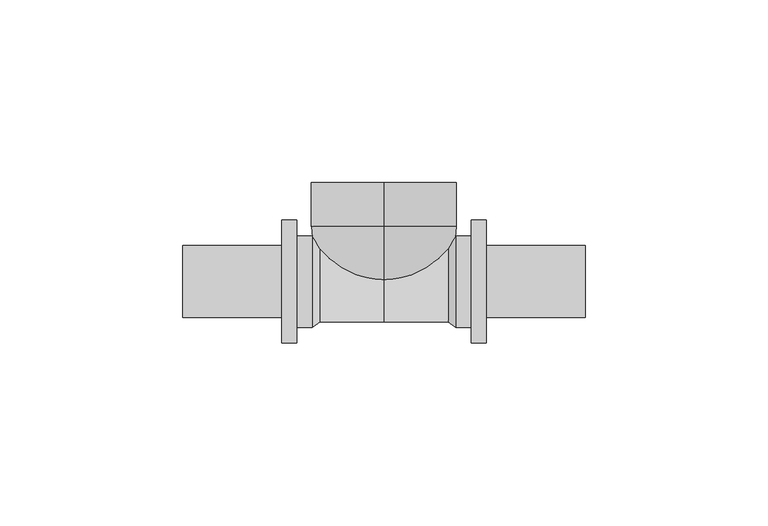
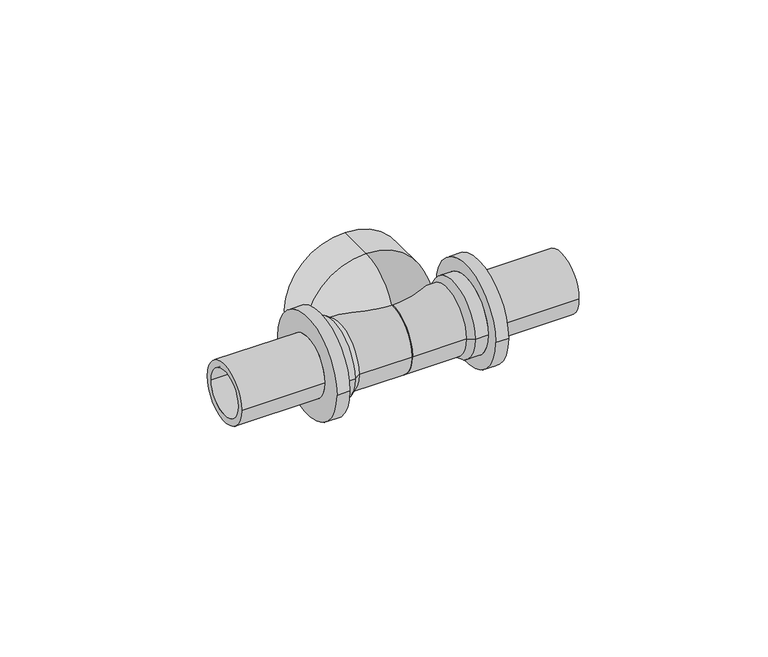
"""IFC4 building model written with IfcOpenShell, lengths in millimetres: pipe fitting geometry, REHAU_RAUTITAN_T-piece RX+, outlet with internal thread : REHAU_RAUTITAN_T-piece RX+, outlet with internal thread."""

from ifc_helpers import new_model, si_unit, point, frame, origin, place, context, project, spatial, polyline, circle_curve, ellipse_curve, trimmed, source, transform, mapped, element, save
from ifc_brep_helpers import plane_surface, cylinder_surface, revolved_surface, advanced_brep


def pipe_fitting_70f18579(model_context):
    return source(origin(), model_context, "Body", "AdvancedBrep", [
        advanced_brep(
        [(0.0, -0.9422002, 4.32), (0.0, -0.9422002, -4.32), (0.0, 15.08, -19.85), (0.0, 15.08, 19.85), (0.0, 2.8802418, 4.32), (0.0, 2.8802418, -4.32), (0.0, 15.08, 16.03), (0.0, 15.08, -16.03), (0.0, 27.06, 16.03), (0.0, 27.06, -16.03), (0.0, 27.06, -19.85), (0.0, 27.06, 19.85)],
        [
            (0, 1, circle_curve(frame((0.0, -0.9422002, 0.0), z_axis=(0.0, 1.0, 0.0), x_axis=(0.0, 0.0, -1.0)), 4.32)),
            (1, 2, circle_curve(frame((0.0, 15.08, -3.82), z_axis=(1.0, 0.0, 0.0), x_axis=(0.0, 1.0, 0.0)), 16.03)),
            (2, 3, circle_curve(frame((0.0, 15.08, 0.0), z_axis=(0.0, -1.0, 0.0), x_axis=(0.0, 0.0, -1.0)), 19.85)),
            (3, 0, circle_curve(frame((0.0, 15.08, 3.82), z_axis=(1.0, 0.0, 0.0), x_axis=(0.0, 1.0, 0.0)), 16.03)),
            (4, 5, circle_curve(frame((0.0, 2.8802418, 0.0), z_axis=(0.0, 1.0, 0.0), x_axis=(0.0, 0.0, -1.0)), 4.32)),
            (5, 1),
            (0, 4),
            (6, 7, circle_curve(frame((0.0, 15.08, 0.0), z_axis=(0.0, 1.0, 0.0), x_axis=(0.0, 0.0, -1.0)), 16.03)),
            (7, 5, circle_curve(frame((0.0, 15.08, -3.82), z_axis=(-1.0, 0.0, 0.0), x_axis=(0.0, 1.0, 0.0)), 12.21)),
            (4, 6, circle_curve(frame((0.0, 15.08, 3.82), z_axis=(-1.0, 0.0, 0.0), x_axis=(0.0, 1.0, 0.0)), 12.21)),
            (8, 9, circle_curve(frame((0.0, 27.06, 0.0), z_axis=(0.0, 1.0, 0.0), x_axis=(0.0, 0.0, -1.0)), 16.03)),
            (9, 7),
            (6, 8),
            (2, 10),
            (10, 11, circle_curve(frame((0.0, 27.06, 0.0), z_axis=(0.0, -1.0, 0.0), x_axis=(0.0, 0.0, -1.0)), 19.85)),
            (11, 3),
            (1, 0, circle_curve(frame((0.0, -0.9422002, 0.0), z_axis=(0.0, 1.0, 0.0), x_axis=(0.0, 0.0, 1.0)), 4.32)),
            (3, 2, circle_curve(frame((0.0, 15.08, 0.0), z_axis=(0.0, -1.0, 0.0), x_axis=(0.0, 0.0, 1.0)), 19.85)),
            (5, 4, circle_curve(frame((0.0, 2.8802418, 0.0), z_axis=(0.0, 1.0, 0.0), x_axis=(0.0, 0.0, 1.0)), 4.32)),
            (7, 6, circle_curve(frame((0.0, 15.08, 0.0), z_axis=(0.0, 1.0, 0.0), x_axis=(0.0, 0.0, 1.0)), 16.03)),
            (9, 8, circle_curve(frame((0.0, 27.06, 0.0), z_axis=(0.0, 1.0, 0.0), x_axis=(0.0, 0.0, 1.0)), 16.03)),
            (10, 11, circle_curve(frame((0.0, 27.06, 0.0), z_axis=(0.0, 1.0, 0.0), x_axis=(0.0, 0.0, 1.0)), 19.85)),
        ],
        [
            revolved_surface(trimmed(ellipse_curve(frame((0.0, 15.08, -3.82), z_axis=(-1.0, 0.0, 0.0), x_axis=(0.0, 1.0, 0.0)), 16.03, 16.03), [point((0.0, 15.08, -19.85))], [point((0.0, -0.9422002, -4.32))], True, "CARTESIAN"), (0.0, 0.0, 0.0), (0.0, -1.0, 0.0)),
            revolved_surface(polyline([(0.0, -0.9422002, -4.32), (0.0, 2.8802418, -4.32)]), (0.0, 0.0, 0.0), (0.0, -1.0, 0.0)),
            revolved_surface(trimmed(ellipse_curve(frame((0.0, 15.08, -3.82), z_axis=(1.0, 0.0, 0.0), x_axis=(0.0, 1.0, 0.0)), 12.21, 12.21), [point((0.0, 2.8802418, -4.32))], [point((0.0, 15.08, -16.03))], True, "CARTESIAN"), (0.0, 0.0, 0.0), (0.0, -1.0, 0.0)),
            revolved_surface(polyline([(0.0, 15.08, -16.03), (0.0, 27.06, -16.03)]), (0.0, 0.0, 0.0), (0.0, -1.0, 0.0)),
            cylinder_surface(frame((0.0, 0.0, 0.0), z_axis=(0.0, -1.0, 0.0), x_axis=(0.0, 0.0, -1.0)), 19.85),
            revolved_surface(trimmed(ellipse_curve(frame((0.0, 15.08, 3.82), z_axis=(1.0, 0.0, 0.0), x_axis=(0.0, 1.0, 0.0)), 16.03, 16.03), [point((0.0, 15.08, 19.85))], [point((0.0, -0.9422002, 4.32))], True, "CARTESIAN"), (0.0, 0.0, 0.0), (0.0, -1.0, 0.0)),
            revolved_surface(polyline([(0.0, -0.9422002, 4.32), (0.0, 2.8802418, 4.32)]), (0.0, 0.0, 0.0), (0.0, -1.0, 0.0)),
            revolved_surface(trimmed(ellipse_curve(frame((0.0, 15.08, 3.82), z_axis=(-1.0, 0.0, 0.0), x_axis=(0.0, 1.0, 0.0)), 12.21, 12.21), [point((0.0, 2.8802418, 4.32))], [point((0.0, 15.08, 16.03))], True, "CARTESIAN"), (0.0, 0.0, 0.0), (0.0, -1.0, 0.0)),
            revolved_surface(polyline([(0.0, 15.08, 16.03), (0.0, 27.06, 16.03)]), (0.0, 0.0, 0.0), (0.0, -1.0, 0.0)),
            plane_surface(frame((0.0, 27.06, 0.0), z_axis=(0.0, 1.0, 0.0), x_axis=(0.0, 0.0, 1.0))),
            cylinder_surface(frame((0.0, 0.0, 0.0), z_axis=(0.0, -1.0, 0.0), x_axis=(0.0, 0.0, 1.0)), 19.85),
        ],
        [
            (0, [[1, 2, 3, 4]]),
            (1, [[5, 6, -1, 7]]),
            (2, [[8, 9, -5, 10]]),
            (3, [[11, 12, -8, 13]]),
            (4, [[-3, 14, 15, 16]]),
            (5, [[17, -4, 18, -2]]),
            (6, [[19, -7, -17, -6]]),
            (7, [[20, -10, -19, -9]]),
            (8, [[21, -13, -20, -12]]),
            (9, [[22, -15], [-21, -11]]),
            (10, [[-18, -16, -22, -14]]),
        ],
    ),
        advanced_brep(
        [(19.6, 7.6, 0.0), (19.6, -7.6, 0.0), (55.0, -7.6, 0.0), (55.0, 7.6, 0.0), (17.5, 8.195, 0.0), (17.5, -8.195, 0.0), (0.0, 8.195, 0.0), (0.0, -8.195, 0.0), (17.5, 11.055, 0.0), (17.5, -11.055, 0.0), (0.0, -11.055, 0.0), (0.0, 11.055, 0.0), (19.6, 12.5, 0.0), (19.6, -12.5, 0.0), (23.8, 12.5, 0.0), (23.8, -12.5, 0.0), (28.0, 16.8, 0.0), (28.0, -16.8, 0.0), (23.8, -16.8, 0.0), (23.8, 16.8, 0.0), (55.0, 9.875, 0.0), (55.0, -9.875, 0.0), (28.0, -9.875, 0.0), (28.0, 9.875, 0.0)],
        [
            (0, 1, circle_curve(frame((19.6, 0.0, 0.0), z_axis=(-1.0, 0.0, 0.0), x_axis=(0.0, -1.0, 0.0)), 7.6)),
            (1, 2),
            (2, 3, circle_curve(frame((55.0, 0.0, 0.0), z_axis=(1.0, 0.0, 0.0), x_axis=(0.0, -1.0, 0.0)), 7.6)),
            (3, 0),
            (4, 5, circle_curve(frame((17.5, 0.0, 0.0), z_axis=(-1.0, 0.0, 0.0), x_axis=(0.0, -1.0, 0.0)), 8.195)),
            (5, 1),
            (0, 4),
            (6, 7, circle_curve(frame((0.0, 0.0, 0.0), z_axis=(-1.0, 0.0, 0.0), x_axis=(0.0, -1.0, 0.0)), 8.195)),
            (7, 5),
            (4, 6),
            (8, 9, circle_curve(frame((17.5, 0.0, 0.0), z_axis=(-1.0, 0.0, 0.0), x_axis=(0.0, -1.0, 0.0)), 11.055)),
            (9, 10),
            (10, 11, circle_curve(frame((0.0, 0.0, 0.0), z_axis=(1.0, 0.0, 0.0), x_axis=(0.0, -1.0, 0.0)), 11.055)),
            (11, 8),
            (12, 13, circle_curve(frame((19.6, 0.0, 0.0), z_axis=(-1.0, 0.0, 0.0), x_axis=(0.0, -1.0, 0.0)), 12.5)),
            (13, 9),
            (8, 12),
            (14, 15, circle_curve(frame((23.8, 0.0, 0.0), z_axis=(-1.0, 0.0, 0.0), x_axis=(0.0, -1.0, 0.0)), 12.5)),
            (15, 13),
            (12, 14),
            (16, 17, circle_curve(frame((28.0, 0.0, 0.0), z_axis=(-1.0, 0.0, 0.0), x_axis=(0.0, -1.0, 0.0)), 16.8)),
            (17, 18),
            (18, 19, circle_curve(frame((23.8, 0.0, 0.0), z_axis=(1.0, 0.0, 0.0), x_axis=(0.0, -1.0, 0.0)), 16.8)),
            (19, 16),
            (20, 21, circle_curve(frame((55.0, 0.0, 0.0), z_axis=(-1.0, 0.0, 0.0), x_axis=(0.0, -1.0, 0.0)), 9.875)),
            (21, 22),
            (22, 23, circle_curve(frame((28.0, 0.0, 0.0), z_axis=(1.0, 0.0, 0.0), x_axis=(0.0, -1.0, 0.0)), 9.875)),
            (23, 20),
            (20, 21, circle_curve(frame((55.0, 0.0, 0.0), z_axis=(1.0, 0.0, 0.0), x_axis=(0.0, 1.0, 0.0)), 9.875)),
            (2, 3, circle_curve(frame((55.0, 0.0, 0.0), z_axis=(-1.0, 0.0, 0.0), x_axis=(0.0, 1.0, 0.0)), 7.6)),
            (1, 0, circle_curve(frame((19.6, 0.0, 0.0), z_axis=(-1.0, 0.0, 0.0), x_axis=(0.0, 1.0, 0.0)), 7.6)),
            (5, 4, circle_curve(frame((17.5, 0.0, 0.0), z_axis=(-1.0, 0.0, 0.0), x_axis=(0.0, 1.0, 0.0)), 8.195)),
            (7, 6, circle_curve(frame((0.0, 0.0, 0.0), z_axis=(-1.0, 0.0, 0.0), x_axis=(0.0, 1.0, 0.0)), 8.195)),
            (10, 11, circle_curve(frame((0.0, 0.0, 0.0), z_axis=(-1.0, 0.0, 0.0), x_axis=(0.0, 1.0, 0.0)), 11.055)),
            (9, 8, circle_curve(frame((17.5, 0.0, 0.0), z_axis=(-1.0, 0.0, 0.0), x_axis=(0.0, 1.0, 0.0)), 11.055)),
            (13, 12, circle_curve(frame((19.6, 0.0, 0.0), z_axis=(-1.0, 0.0, 0.0), x_axis=(0.0, 1.0, 0.0)), 12.5)),
            (15, 14, circle_curve(frame((23.8, 0.0, 0.0), z_axis=(-1.0, 0.0, 0.0), x_axis=(0.0, 1.0, 0.0)), 12.5)),
            (18, 19, circle_curve(frame((23.8, 0.0, 0.0), z_axis=(-1.0, 0.0, 0.0), x_axis=(0.0, 1.0, 0.0)), 16.8)),
            (17, 16, circle_curve(frame((28.0, 0.0, 0.0), z_axis=(-1.0, 0.0, 0.0), x_axis=(0.0, 1.0, 0.0)), 16.8)),
            (22, 23, circle_curve(frame((28.0, 0.0, 0.0), z_axis=(-1.0, 0.0, 0.0), x_axis=(0.0, 1.0, 0.0)), 9.875)),
        ],
        [
            revolved_surface(polyline([(55.0, -7.6, 0.0), (19.6, -7.6, 0.0)]), (0.0, 0.0, 0.0), (1.0, 0.0, 0.0)),
            revolved_surface(polyline([(19.6, -7.6, 0.0), (17.5, -8.195, 0.0)]), (0.0, 0.0, 0.0), (1.0, 0.0, 0.0)),
            revolved_surface(polyline([(17.5, -8.195, 0.0), (0.0, -8.195, 0.0)]), (0.0, 0.0, 0.0), (1.0, 0.0, 0.0)),
            cylinder_surface(frame((0.0, 0.0, 0.0), z_axis=(1.0, 0.0, 0.0), x_axis=(0.0, -1.0, 0.0)), 11.055),
            revolved_surface(polyline([(17.5, -11.055, 0.0), (19.6, -12.5, 0.0)]), (0.0, 0.0, 0.0), (1.0, 0.0, 0.0)),
            cylinder_surface(frame((0.0, 0.0, 0.0), z_axis=(1.0, 0.0, 0.0), x_axis=(0.0, -1.0, 0.0)), 12.5),
            cylinder_surface(frame((0.0, 0.0, 0.0), z_axis=(1.0, 0.0, 0.0), x_axis=(0.0, -1.0, 0.0)), 16.8),
            cylinder_surface(frame((0.0, 0.0, 0.0), z_axis=(1.0, 0.0, 0.0), x_axis=(0.0, -1.0, 0.0)), 9.875),
            plane_surface(frame((55.0, 0.0, 0.0), z_axis=(1.0, 0.0, 0.0), x_axis=(0.0, 1.0, 0.0))),
            revolved_surface(polyline([(55.0, 7.6, 0.0), (19.6, 7.6, 0.0)]), (0.0, 0.0, 0.0), (1.0, 0.0, 0.0)),
            revolved_surface(polyline([(19.6, 7.6, 0.0), (17.5, 8.195, 0.0)]), (0.0, 0.0, 0.0), (1.0, 0.0, 0.0)),
            revolved_surface(polyline([(17.5, 8.195, 0.0), (0.0, 8.195, 0.0)]), (0.0, 0.0, 0.0), (1.0, 0.0, 0.0)),
            plane_surface(frame((0.0, 0.0, 0.0), z_axis=(-1.0, 0.0, 0.0), x_axis=(0.0, 1.0, 0.0))),
            cylinder_surface(frame((0.0, 0.0, 0.0), z_axis=(1.0, 0.0, 0.0), x_axis=(0.0, 1.0, 0.0)), 11.055),
            revolved_surface(polyline([(17.5, 11.055, 0.0), (19.6, 12.5, 0.0)]), (0.0, 0.0, 0.0), (1.0, 0.0, 0.0)),
            cylinder_surface(frame((0.0, 0.0, 0.0), z_axis=(1.0, 0.0, 0.0), x_axis=(0.0, 1.0, 0.0)), 12.5),
            plane_surface(frame((23.8, 0.0, 0.0), z_axis=(-1.0, 0.0, 0.0), x_axis=(0.0, 1.0, 0.0))),
            cylinder_surface(frame((0.0, 0.0, 0.0), z_axis=(1.0, 0.0, 0.0), x_axis=(0.0, 1.0, 0.0)), 16.8),
            plane_surface(frame((28.0, 0.0, 0.0), z_axis=(1.0, 0.0, 0.0), x_axis=(0.0, 1.0, 0.0))),
            cylinder_surface(frame((0.0, 0.0, 0.0), z_axis=(1.0, 0.0, 0.0), x_axis=(0.0, 1.0, 0.0)), 9.875),
        ],
        [
            (0, [[1, 2, 3, 4]]),
            (1, [[5, 6, -1, 7]]),
            (2, [[8, 9, -5, 10]]),
            (3, [[11, 12, 13, 14]]),
            (4, [[15, 16, -11, 17]]),
            (5, [[18, 19, -15, 20]]),
            (6, [[21, 22, 23, 24]]),
            (7, [[25, 26, 27, 28]]),
            (8, [[29, -25], [30, -3]]),
            (9, [[31, -4, -30, -2]]),
            (10, [[32, -7, -31, -6]]),
            (11, [[33, -10, -32, -9]]),
            (12, [[34, -13], [-33, -8]]),
            (13, [[35, -14, -34, -12]]),
            (14, [[36, -17, -35, -16]]),
            (15, [[37, -20, -36, -19]]),
            (16, [[38, -23], [-37, -18]]),
            (17, [[39, -24, -38, -22]]),
            (18, [[-39, -21], [40, -27]]),
            (19, [[-29, -28, -40, -26]]),
        ],
    ),
        advanced_brep(
        [(-28.0, 9.875, 0.0), (-28.0, -9.875, 0.0), (-55.0, -9.875, 0.0), (-55.0, 9.875, 0.0), (-23.8, 16.8, 0.0), (-23.8, -16.8, 0.0), (-28.0, -16.8, 0.0), (-28.0, 16.8, 0.0), (-19.6, 12.5, 0.0), (-19.6, -12.5, 0.0), (-23.8, -12.5, 0.0), (-23.8, 12.5, 0.0), (-17.5, 11.055, 0.0), (-17.5, -11.055, 0.0), (0.0, 11.055, 0.0), (0.0, -11.055, 0.0), (-17.5, 8.195, 0.0), (-17.5, -8.195, 0.0), (0.0, -8.195, 0.0), (0.0, 8.195, 0.0), (-19.6, 7.6, 0.0), (-19.6, -7.6, 0.0), (-55.0, 7.6, 0.0), (-55.0, -7.6, 0.0)],
        [
            (0, 1, circle_curve(frame((-28.0, 0.0, 0.0), z_axis=(-1.0, 0.0, 0.0), x_axis=(0.0, -1.0, 0.0)), 9.875)),
            (1, 2),
            (2, 3, circle_curve(frame((-55.0, 0.0, 0.0), z_axis=(1.0, 0.0, 0.0), x_axis=(0.0, -1.0, 0.0)), 9.875)),
            (3, 0),
            (4, 5, circle_curve(frame((-23.8, 0.0, 0.0), z_axis=(-1.0, 0.0, 0.0), x_axis=(0.0, -1.0, 0.0)), 16.8)),
            (5, 6),
            (6, 7, circle_curve(frame((-28.0, 0.0, 0.0), z_axis=(1.0, 0.0, 0.0), x_axis=(0.0, -1.0, 0.0)), 16.8)),
            (7, 4),
            (8, 9, circle_curve(frame((-19.6, 0.0, 0.0), z_axis=(-1.0, 0.0, 0.0), x_axis=(0.0, -1.0, 0.0)), 12.5)),
            (9, 10),
            (10, 11, circle_curve(frame((-23.8, 0.0, 0.0), z_axis=(1.0, 0.0, 0.0), x_axis=(0.0, -1.0, 0.0)), 12.5)),
            (11, 8),
            (12, 13, circle_curve(frame((-17.5, 0.0, 0.0), z_axis=(-1.0, 0.0, 0.0), x_axis=(0.0, -1.0, 0.0)), 11.055)),
            (13, 9),
            (8, 12),
            (14, 15, circle_curve(frame((0.0, 0.0, 0.0), z_axis=(-1.0, 0.0, 0.0), x_axis=(0.0, -1.0, 0.0)), 11.055)),
            (15, 13),
            (12, 14),
            (16, 17, circle_curve(frame((-17.5, 0.0, 0.0), z_axis=(-1.0, 0.0, 0.0), x_axis=(0.0, -1.0, 0.0)), 8.195)),
            (17, 18),
            (18, 19, circle_curve(frame((0.0, 0.0, 0.0), z_axis=(1.0, 0.0, 0.0), x_axis=(0.0, -1.0, 0.0)), 8.195)),
            (19, 16),
            (20, 21, circle_curve(frame((-19.6, 0.0, 0.0), z_axis=(-1.0, 0.0, 0.0), x_axis=(0.0, -1.0, 0.0)), 7.6)),
            (21, 17),
            (16, 20),
            (22, 23, circle_curve(frame((-55.0, 0.0, 0.0), z_axis=(-1.0, 0.0, 0.0), x_axis=(0.0, -1.0, 0.0)), 7.6)),
            (23, 21),
            (20, 22),
            (1, 0, circle_curve(frame((-28.0, 0.0, 0.0), z_axis=(-1.0, 0.0, 0.0), x_axis=(0.0, 1.0, 0.0)), 9.875)),
            (3, 2, circle_curve(frame((-55.0, 0.0, 0.0), z_axis=(1.0, 0.0, 0.0), x_axis=(0.0, 1.0, 0.0)), 9.875)),
            (6, 7, circle_curve(frame((-28.0, 0.0, 0.0), z_axis=(-1.0, 0.0, 0.0), x_axis=(0.0, 1.0, 0.0)), 16.8)),
            (5, 4, circle_curve(frame((-23.8, 0.0, 0.0), z_axis=(-1.0, 0.0, 0.0), x_axis=(0.0, 1.0, 0.0)), 16.8)),
            (10, 11, circle_curve(frame((-23.8, 0.0, 0.0), z_axis=(-1.0, 0.0, 0.0), x_axis=(0.0, 1.0, 0.0)), 12.5)),
            (9, 8, circle_curve(frame((-19.6, 0.0, 0.0), z_axis=(-1.0, 0.0, 0.0), x_axis=(0.0, 1.0, 0.0)), 12.5)),
            (13, 12, circle_curve(frame((-17.5, 0.0, 0.0), z_axis=(-1.0, 0.0, 0.0), x_axis=(0.0, 1.0, 0.0)), 11.055)),
            (15, 14, circle_curve(frame((0.0, 0.0, 0.0), z_axis=(-1.0, 0.0, 0.0), x_axis=(0.0, 1.0, 0.0)), 11.055)),
            (18, 19, circle_curve(frame((0.0, 0.0, 0.0), z_axis=(-1.0, 0.0, 0.0), x_axis=(0.0, 1.0, 0.0)), 8.195)),
            (17, 16, circle_curve(frame((-17.5, 0.0, 0.0), z_axis=(-1.0, 0.0, 0.0), x_axis=(0.0, 1.0, 0.0)), 8.195)),
            (21, 20, circle_curve(frame((-19.6, 0.0, 0.0), z_axis=(-1.0, 0.0, 0.0), x_axis=(0.0, 1.0, 0.0)), 7.6)),
            (23, 22, circle_curve(frame((-55.0, 0.0, 0.0), z_axis=(-1.0, 0.0, 0.0), x_axis=(0.0, 1.0, 0.0)), 7.6)),
        ],
        [
            cylinder_surface(frame((0.0, 0.0, 0.0), z_axis=(1.0, 0.0, 0.0), x_axis=(0.0, -1.0, 0.0)), 9.875),
            cylinder_surface(frame((0.0, 0.0, 0.0), z_axis=(1.0, 0.0, 0.0), x_axis=(0.0, -1.0, 0.0)), 16.8),
            cylinder_surface(frame((0.0, 0.0, 0.0), z_axis=(1.0, 0.0, 0.0), x_axis=(0.0, -1.0, 0.0)), 12.5),
            revolved_surface(polyline([(-19.6, -12.5, 0.0), (-17.5, -11.055, 0.0)]), (0.0, 0.0, 0.0), (1.0, 0.0, 0.0)),
            cylinder_surface(frame((0.0, 0.0, 0.0), z_axis=(1.0, 0.0, 0.0), x_axis=(0.0, -1.0, 0.0)), 11.055),
            revolved_surface(polyline([(0.0, -8.195, 0.0), (-17.5, -8.195, 0.0)]), (0.0, 0.0, 0.0), (1.0, 0.0, 0.0)),
            revolved_surface(polyline([(-17.5, -8.195, 0.0), (-19.6, -7.6, 0.0)]), (0.0, 0.0, 0.0), (1.0, 0.0, 0.0)),
            revolved_surface(polyline([(-19.6, -7.6, 0.0), (-55.0, -7.6, 0.0)]), (0.0, 0.0, 0.0), (1.0, 0.0, 0.0)),
            cylinder_surface(frame((0.0, 0.0, 0.0), z_axis=(1.0, 0.0, 0.0), x_axis=(0.0, 1.0, 0.0)), 9.875),
            plane_surface(frame((-28.0, 0.0, 0.0), z_axis=(-1.0, 0.0, 0.0), x_axis=(0.0, 1.0, 0.0))),
            cylinder_surface(frame((0.0, 0.0, 0.0), z_axis=(1.0, 0.0, 0.0), x_axis=(0.0, 1.0, 0.0)), 16.8),
            plane_surface(frame((-23.8, 0.0, 0.0), z_axis=(1.0, 0.0, 0.0), x_axis=(0.0, 1.0, 0.0))),
            cylinder_surface(frame((0.0, 0.0, 0.0), z_axis=(1.0, 0.0, 0.0), x_axis=(0.0, 1.0, 0.0)), 12.5),
            revolved_surface(polyline([(-19.6, 12.5, 0.0), (-17.5, 11.055, 0.0)]), (0.0, 0.0, 0.0), (1.0, 0.0, 0.0)),
            cylinder_surface(frame((0.0, 0.0, 0.0), z_axis=(1.0, 0.0, 0.0), x_axis=(0.0, 1.0, 0.0)), 11.055),
            plane_surface(frame((0.0, 0.0, 0.0), z_axis=(1.0, 0.0, 0.0), x_axis=(0.0, 1.0, 0.0))),
            revolved_surface(polyline([(0.0, 8.195, 0.0), (-17.5, 8.195, 0.0)]), (0.0, 0.0, 0.0), (1.0, 0.0, 0.0)),
            revolved_surface(polyline([(-17.5, 8.195, 0.0), (-19.6, 7.6, 0.0)]), (0.0, 0.0, 0.0), (1.0, 0.0, 0.0)),
            revolved_surface(polyline([(-19.6, 7.6, 0.0), (-55.0, 7.6, 0.0)]), (0.0, 0.0, 0.0), (1.0, 0.0, 0.0)),
            plane_surface(frame((-55.0, 0.0, 0.0), z_axis=(-1.0, 0.0, 0.0), x_axis=(0.0, 1.0, 0.0))),
        ],
        [
            (0, [[1, 2, 3, 4]]),
            (1, [[5, 6, 7, 8]]),
            (2, [[9, 10, 11, 12]]),
            (3, [[13, 14, -9, 15]]),
            (4, [[16, 17, -13, 18]]),
            (5, [[19, 20, 21, 22]]),
            (6, [[23, 24, -19, 25]]),
            (7, [[26, 27, -23, 28]]),
            (8, [[29, -4, 30, -2]]),
            (9, [[31, -7], [-29, -1]]),
            (10, [[32, -8, -31, -6]]),
            (11, [[-32, -5], [33, -11]]),
            (12, [[34, -12, -33, -10]]),
            (13, [[35, -15, -34, -14]]),
            (14, [[36, -18, -35, -17]]),
            (15, [[-36, -16], [37, -21]]),
            (16, [[38, -22, -37, -20]]),
            (17, [[39, -25, -38, -24]]),
            (18, [[40, -28, -39, -27]]),
            (19, [[-30, -3], [-40, -26]]),
        ],
    ),
    ])


if __name__ == "__main__":
    model = new_model("IFC4")
    model_context = context("Model", 3, world=origin())
    ifc_project = project(units=[si_unit("LENGTHUNIT", "METRE", prefix="MILLI")], contexts=[model_context])
    site = spatial("IfcSite", under=ifc_project)
    building = spatial("IfcBuilding", under=site)
    placement = place(None, origin())
    pipe_fitting_shape = pipe_fitting_70f18579(model_context)
    element("IfcPipeFitting", 1, ObjectType="REHAU_RAUTITAN_T-piece RX+, outlet with internal thread : REHAU_RAUTITAN_T-piece RX+, outlet with internal thread", at=placement, inside=building, context=model_context, shape_type="MappedRepresentation", body=[
        mapped(pipe_fitting_shape, transform((0.0, 0.0, 0.0), x_axis=(1.0, 0.0, 0.0), y_axis=(0.0, 1.0, 0.0), z_axis=(0.0, 0.0, 1.0))),
    ])
    save(model, "model.ifc")
